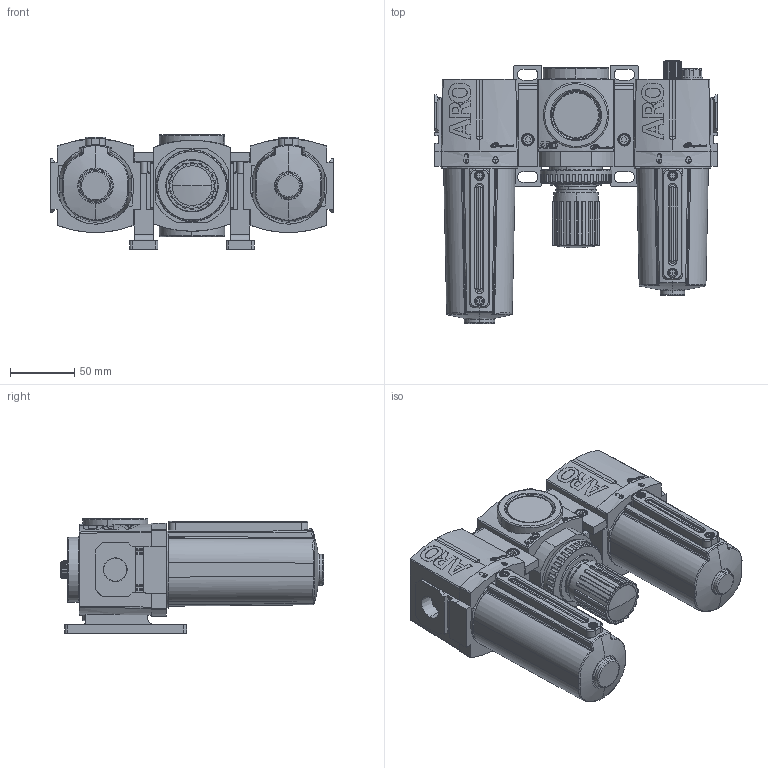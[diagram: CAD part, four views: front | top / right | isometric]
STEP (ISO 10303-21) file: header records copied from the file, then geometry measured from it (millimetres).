
FILE_DESCRIPTION(/* description */ (''),/* implementation_level */ '2;1');
FILE_NAME(/* name */ 'C383X1-81X_01',/* time_stamp */ '2009-02-06T14:19:37-05:00',/* author */ (''),/* organization */ (''),/* preprocessor_version */ 'ST-DEVELOPER v9',/* originating_system */ 'UGS - NX 4.0',/* authorisation */ '');
FILE_SCHEMA (('AUTOMOTIVE_DESIGN { 1 0 10303 214 1 1 1 1 }'));
Length unit declared in the file: inch
Products named in the file (1): szeeA340nhqw
Bounding box: 220.8 x 205.5 x 89.8 mm (x, y, z)
Volume: 1598641.6 mm3; surface area: 189521.2 mm2
Topology: 6 solids, 6 shells, 3835 faces, 9914 edges, 6400 vertices
Faces by surface type: plane 2411, cylinder 737, extrusion 213, cone 159, bspline 138, torus 117, sphere 46, revolution 14
Full cylindrical faces by diameter (mm): 53.516 x1
Entity records: 166691 total; most frequent: CARTESIAN_POINT 49161, ORIENTED_EDGE 19750, DIRECTION 17022, EDGE_CURVE 9875, VECTOR 6440, VERTEX_POINT 6406, LINE 6227, AXIS2_PLACEMENT_3D 5284
